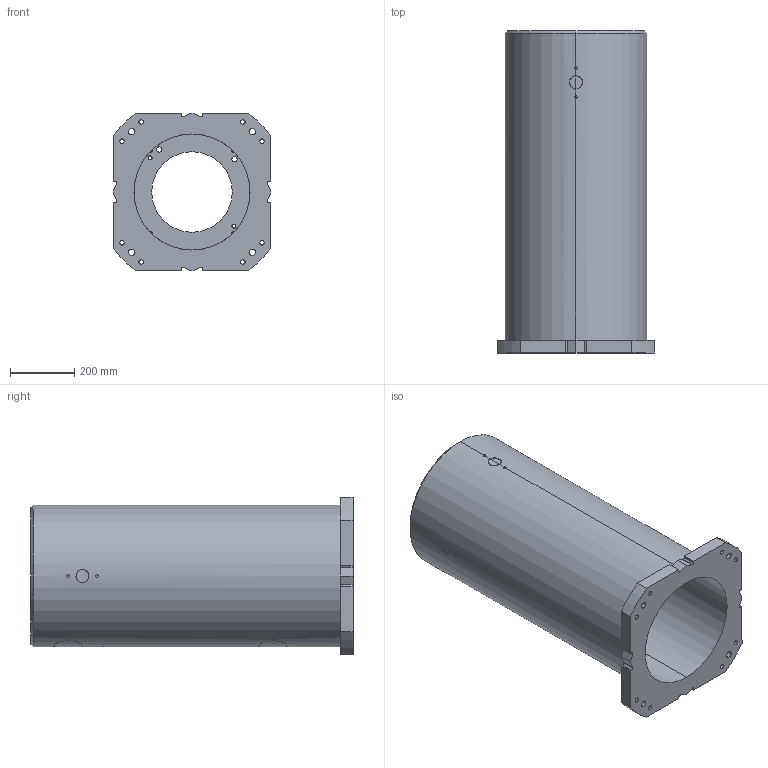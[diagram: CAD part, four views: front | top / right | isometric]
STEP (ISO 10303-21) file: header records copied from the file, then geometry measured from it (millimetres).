
FILE_DESCRIPTION (( 'STEP AP214' ), '1' );
FILE_NAME ('H-1000.STEP', '2025-12-08T06:26:44', ( '' ), ( '' ), 'SwSTEP 2.0', 'SolidWorks 2022', '' );
FILE_SCHEMA (( 'AUTOMOTIVE_DESIGN' ));
Length unit declared in the file: millimetre
Products named in the file (1): H-1000
Bounding box: 490 x 1000 x 490 mm (x, y, z)
Volume: 55081262.2 mm3; surface area: 2906624.3 mm2
Topology: 1 solids, 1 shells, 175 faces, 485 edges, 320 vertices
Faces by surface type: cylinder 117, plane 32, bspline 24, cone 2
Entity records: 11341 total; most frequent: CARTESIAN_POINT 6370, ORIENTED_EDGE 970, DIRECTION 785, EDGE_CURVE 485, VERTEX_POINT 320, AXIS2_PLACEMENT_3D 302, EDGE_LOOP 225, VECTOR 181
